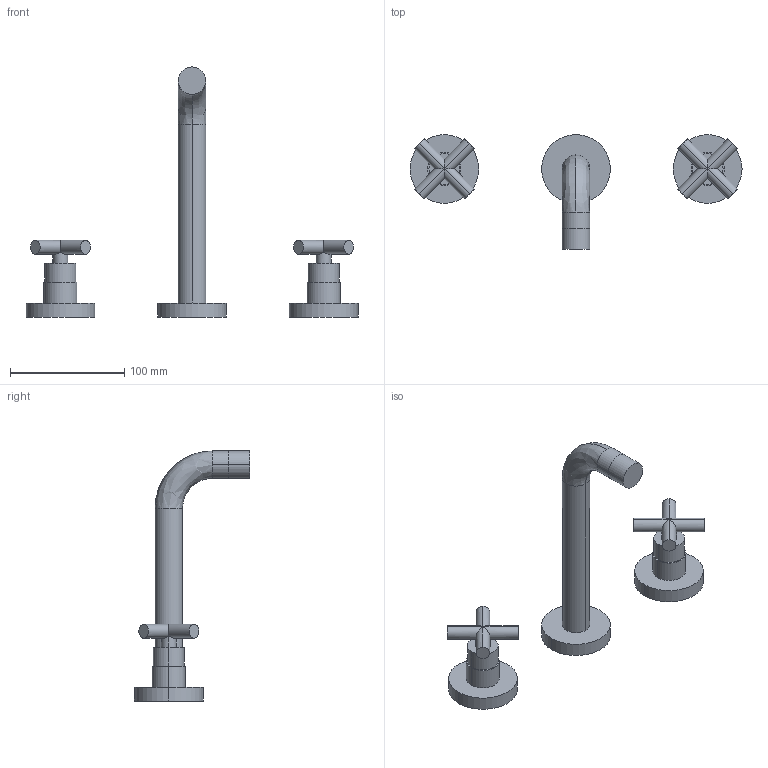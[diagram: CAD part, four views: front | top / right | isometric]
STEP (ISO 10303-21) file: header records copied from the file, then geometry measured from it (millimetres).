
FILE_DESCRIPTION(('FreeCAD Model'),'2;1');
FILE_NAME('Open CASCADE Shape Model','2024-08-09T22:52:46',('Author'),( ''),'Open CASCADE STEP processor 7.6','FreeCAD','Unknown');
FILE_SCHEMA(('AUTOMOTIVE_DESIGN { 1 0 10303 214 1 1 1 1 }'));
Length unit declared in the file: millimetre
Products named in the file (11): TopLevelAssembly; Wyciąganie001; Wyciąganie002; Wyciąganie003; Wyciąganie004; Wyciąganie005; Wyciąganie006; Wyciąganie007; Połączona geometria bryłowa; Połączona geometria bryłowa001; Połączona geometria bryłowa002
Assembly tree (10 placements, depth 2):
  TopLevelAssembly
    Wyciąganie001
    Wyciąganie002
    Wyciąganie003
    Wyciąganie004
    Wyciąganie005
    Wyciąganie006
    Wyciąganie007
    Połączona geometria bryłowa
    Połączona geometria bryłowa001
    Połączona geometria bryłowa002
Bounding box: 290 x 100.5 x 218.5 mm (x, y, z)
Volume: 285400.6 mm3; surface area: 65200.6 mm2
Topology: 10 solids, 10 shells, 70 faces, 132 edges, 82 vertices
Faces by surface type: cylinder 42, plane 26, bspline 2
Entity records: 2176 total; most frequent: CARTESIAN_POINT 467, DIRECTION 348, ORIENTED_EDGE 264, AXIS2_PLACEMENT_3D 153, EDGE_CURVE 132, VERTEX_POINT 82, FACE_BOUND 72, EDGE_LOOP 72
